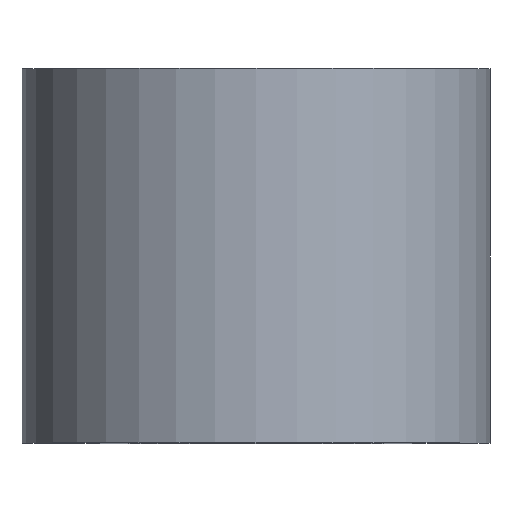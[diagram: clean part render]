
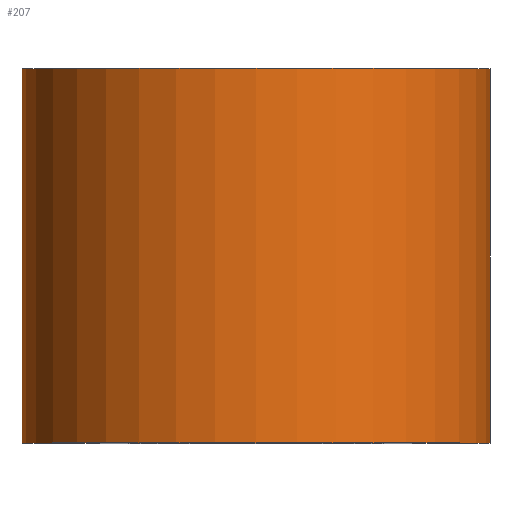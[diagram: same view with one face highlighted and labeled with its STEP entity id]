
A CAD part, top view. The second image highlights one B-rep face of the part: STEP entity #207.
In plain terms, the highlighted cylindrical face has radius 7.5 mm (diameter 15 mm), a partial arc.
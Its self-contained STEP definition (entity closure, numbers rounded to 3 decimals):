
#3 = FACE_OUTER_BOUND ( 'NONE', #241, .T. ) ;
#13 = CARTESIAN_POINT ( 'NONE',  ( -7.5, 0., 0. ) ) ;
#14 = LINE ( 'NONE', #92, #185 ) ;
#27 = VECTOR ( 'NONE', #238, 1000. ) ;
#32 = EDGE_CURVE ( 'NONE', #94, #271, #14, .T. ) ;
#51 = ORIENTED_EDGE ( 'NONE', *, *, #256, .T. ) ;
#57 = DIRECTION ( 'NONE',  ( 0., 1., 0. ) ) ;
#73 = CARTESIAN_POINT ( 'NONE',  ( -7.5, 0., 0. ) ) ;
#92 = CARTESIAN_POINT ( 'NONE',  ( 7.5, 0., 0. ) ) ;
#94 = VERTEX_POINT ( 'NONE', #121 ) ;
#95 = AXIS2_PLACEMENT_3D ( 'NONE', #244, #152, #290 ) ;
#100 = CARTESIAN_POINT ( 'NONE',  ( 0., 12., 0. ) ) ;
#102 = CARTESIAN_POINT ( 'NONE',  ( 7.5, 12., 0. ) ) ;
#106 = EDGE_CURVE ( 'NONE', #118, #296, #146, .T. ) ;
#118 = VERTEX_POINT ( 'NONE', #13 ) ;
#121 = CARTESIAN_POINT ( 'NONE',  ( 7.5, 0., 0. ) ) ;
#127 = AXIS2_PLACEMENT_3D ( 'NONE', #128, #175, #248 ) ;
#128 = CARTESIAN_POINT ( 'NONE',  ( 0., 0., 0. ) ) ;
#131 = CARTESIAN_POINT ( 'NONE',  ( -7.5, 12., 0. ) ) ;
#135 = AXIS2_PLACEMENT_3D ( 'NONE', #100, #57, #147 ) ;
#137 = ORIENTED_EDGE ( 'NONE', *, *, #32, .T. ) ;
#146 = LINE ( 'NONE', #73, #27 ) ;
#147 = DIRECTION ( 'NONE',  ( -1., 0., 0. ) ) ;
#152 = DIRECTION ( 'NONE',  ( 0., 1., 0. ) ) ;
#160 = CIRCLE ( 'NONE', #95, 7.5 ) ;
#170 = DIRECTION ( 'NONE',  ( 0., 1., 0. ) ) ;
#175 = DIRECTION ( 'NONE',  ( 0., 1., 0. ) ) ;
#184 = CYLINDRICAL_SURFACE ( 'NONE', #127, 7.5 ) ;
#185 = VECTOR ( 'NONE', #170, 1000. ) ;
#207 = ADVANCED_FACE ( 'NONE', ( #3 ), #184, .T. ) ;
#215 = ORIENTED_EDGE ( 'NONE', *, *, #253, .F. ) ;
#238 = DIRECTION ( 'NONE',  ( 0., 1., 0. ) ) ;
#241 = EDGE_LOOP ( 'NONE', ( #51, #137, #215, #260 ) ) ;
#244 = CARTESIAN_POINT ( 'NONE',  ( 0., 0., 0. ) ) ;
#248 = DIRECTION ( 'NONE',  ( -1., 0., 0. ) ) ;
#253 = EDGE_CURVE ( 'NONE', #296, #271, #261, .T. ) ;
#256 = EDGE_CURVE ( 'NONE', #118, #94, #160, .T. ) ;
#260 = ORIENTED_EDGE ( 'NONE', *, *, #106, .F. ) ;
#261 = CIRCLE ( 'NONE', #135, 7.5 ) ;
#271 = VERTEX_POINT ( 'NONE', #102 ) ;
#290 = DIRECTION ( 'NONE',  ( -1., 0., 0. ) ) ;
#296 = VERTEX_POINT ( 'NONE', #131 ) ;
